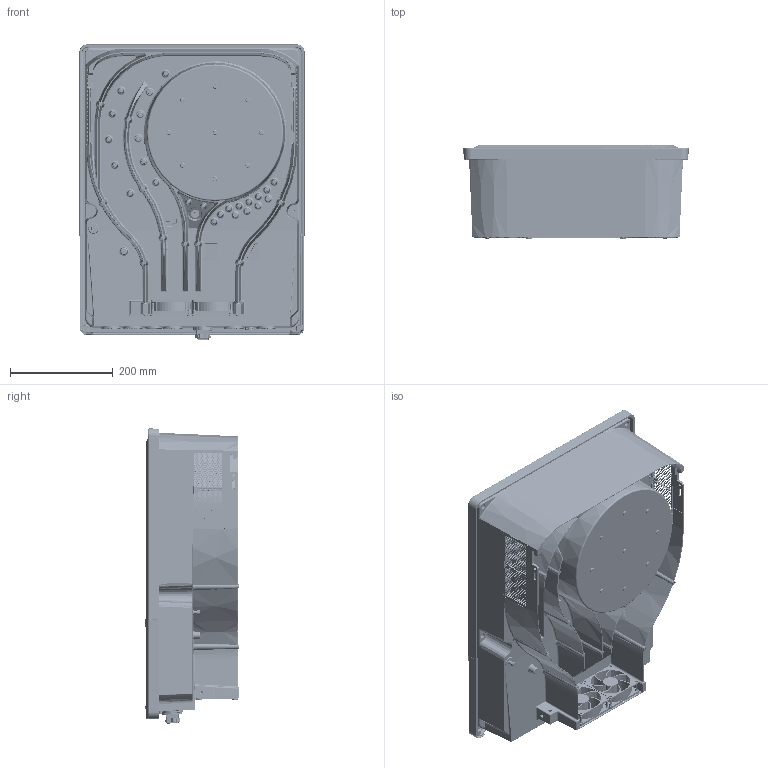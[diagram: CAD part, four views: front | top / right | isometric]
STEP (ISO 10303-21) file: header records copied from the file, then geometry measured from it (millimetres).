
FILE_DESCRIPTION(/* description */ ('Main assembly'),/* implementation_level */ '2;1');
FILE_NAME(/* name */ '118547-C-3D.stp',/* time_stamp */ '2025-10-14T09:48:48+02:00',/* author */ ('jean-daniel.bochud'),/* organization */ (''),/* preprocessor_version */ 'ST-DEVELOPER v20',/* originating_system */ 'Autodesk Inventor 2025',/* authorisation */ '');
FILE_SCHEMA (('AUTOMOTIVE_DESIGN { 1 0 10303 214 3 1 1 }'));
Products named in the file (22): 118547-C-objet; 117916-L; 118031; 118460-C; 115743; 117926-F; 118460-F345; 115618; 108808; 118809; 118575; 118577; 118255; 118578; 118459-D; 117917-G; 118248-F-ass; BN 384 M5x12; 118248-F-Seal; 118248-F; 14884-HCW-M5-BZP; 118459-D_MIR
Assembly tree (42 placements, depth 3):
  118547-C-objet
    117916-L
    118031
    118460-C
      115743  x2
      117926-F
      118460-F345  x8
    115618  x4
    108808
    118809
    118575  x5
    118577
    118255
    118578
    118459-D
    117917-G
    118248-F-ass
      BN 384 M5x12  x6
      118248-F-Seal
      118248-F
      14884-HCW-M5-BZP  x2
    118459-D_MIR
Bounding box: 439.08 x 181.96 x 575.31 mm (x, y, z)
Volume: 4397741.5 mm3; surface area: 2144167 mm2
Topology: 42 solids, 49 shells, 15121 faces, 40929 edges, 25950 vertices
Faces by surface type: plane 8185, cylinder 2751, bspline 2645, torus 795, cone 628, sphere 117
Full cylindrical faces by diameter (mm): 0.75 x1, 1.13 x1, 2 x1, 3 x1, 3.242 x43, 3.3 x2, 3.6 x6, 3.8 x8, 4 x5, 4.134 x6, 4.3 x16, 4.4 x20, 4.5 x2, 4.6 x8, 4.8 x8, 5 x6, 5.2 x6, 5.5 x2, 6.422 x1, 6.483 x1, 6.486 x1, 6.561 x1, 6.647 x4, 7.3 x1, 8 x9, 9 x2, 10 x47, 10.2 x1, 11 x2, 11.581 x1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
Entity records: 515990 total; most frequent: CARTESIAN_POINT 177233, ORIENTED_EDGE 72228, DIRECTION 63564, EDGE_CURVE 36114, LINE 24306, VECTOR 24306, VERTEX_POINT 23043, AXIS2_PLACEMENT_3D 19629
